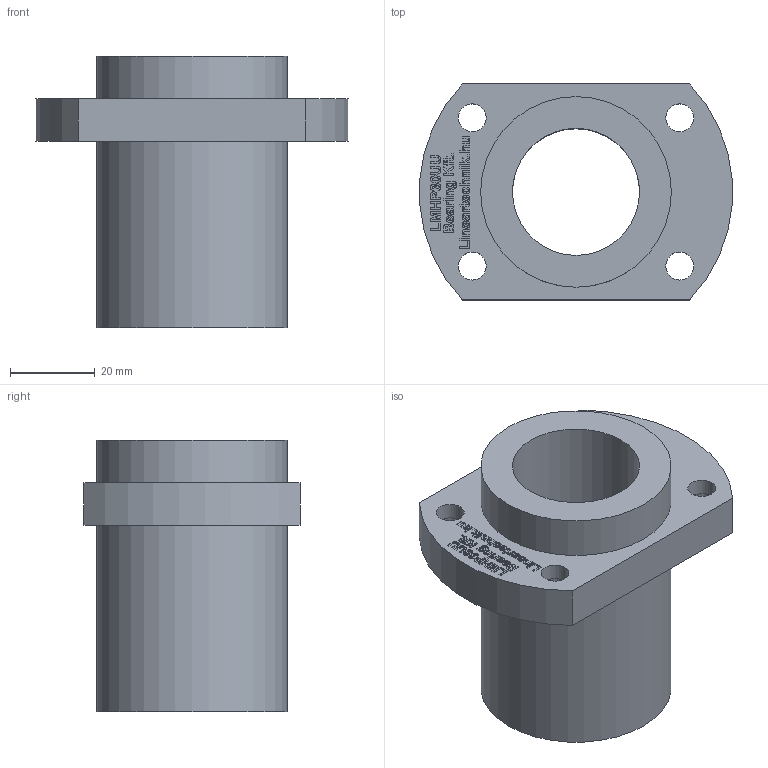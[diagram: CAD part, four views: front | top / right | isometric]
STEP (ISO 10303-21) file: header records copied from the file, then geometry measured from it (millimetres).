
FILE_DESCRIPTION(/* description */ (''),/* implementation_level */ '2;1');
FILE_NAME(/* name */ 'LMHP30UU',/* time_stamp */ '2019-07-09T13:43:15+02:00',/* author */ ('VĂ©gh MĂˇtĂ©'),/* organization */ ('Bearing Kft'),/* preprocessor_version */ 'ST-DEVELOPER v16.7',/* originating_system */ 'DEX',/* authorisation */ $);
FILE_SCHEMA (('AUTOMOTIVE_DESIGN {1 0 10303 214 3 1 1}'));
Length unit declared in the file: millimetre
Products named in the file (1): LMHP30UU
Bounding box: 73.74 x 51 x 64 mm (x, y, z)
Volume: 72276.6 mm3; surface area: 22271.9 mm2
Topology: 1 solids, 1 shells, 331 faces, 829 edges, 554 vertices
Faces by surface type: plane 253, bspline 63, cylinder 15
Full cylindrical faces by diameter (mm): 6.6 x4, 11 x4, 30 x1, 45 x2
Entity records: 13013 total; most frequent: CARTESIAN_POINT 5498, ORIENTED_EDGE 1622, DIRECTION 1253, EDGE_CURVE 811, LINE 655, VECTOR 655, VERTEX_POINT 550, EDGE_LOOP 409
